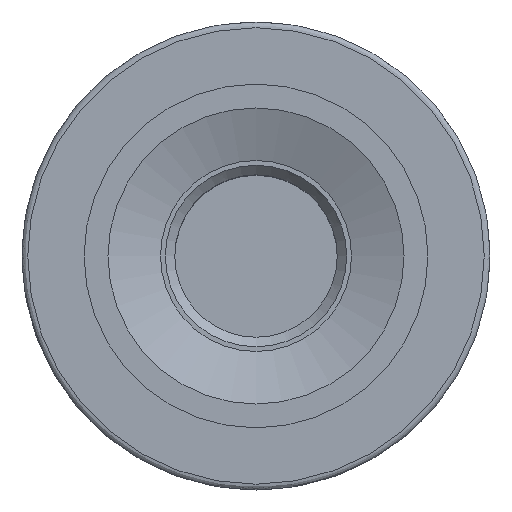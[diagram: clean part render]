
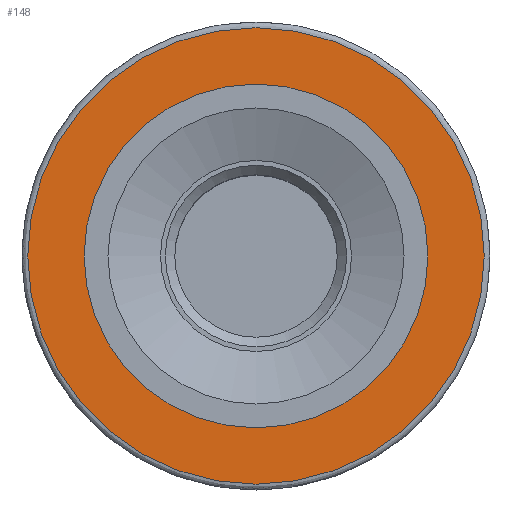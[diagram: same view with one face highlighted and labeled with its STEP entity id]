
A CAD part, top view. The second image highlights one B-rep face of the part: STEP entity #148.
In plain terms, the highlighted planar face has unit normal (0, 0, 1).
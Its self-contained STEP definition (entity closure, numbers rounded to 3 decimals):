
#89=CARTESIAN_POINT('',(-436.719,-729.281,69.49));
#90=VERTEX_POINT('',#89);
#97=CARTESIAN_POINT('',(-418.719,-729.281,69.49));
#98=VERTEX_POINT('',#97);
#99=CARTESIAN_POINT('',(-427.719,-729.281,69.49));
#100=DIRECTION('',(0.0,0.0,1.0));
#101=DIRECTION('',(-1.0,0.0,0.0));
#102=AXIS2_PLACEMENT_3D('',#99,#100,#101);
#103=CIRCLE('',#102,9.0);
#104=EDGE_CURVE('',#90,#98,#103,.T.);
#106=CARTESIAN_POINT('',(-427.719,-729.281,69.49));
#107=DIRECTION('',(0.0,0.0,1.0));
#108=DIRECTION('',(-1.0,0.0,0.0));
#109=AXIS2_PLACEMENT_3D('',#106,#107,#108);
#110=CIRCLE('',#109,9.0);
#111=EDGE_CURVE('',#98,#90,#110,.T.);
#119=CARTESIAN_POINT('',(-403.819,-705.381,69.49));
#120=DIRECTION('',(0.0,0.0,-1.0));
#121=DIRECTION('',(0.0,-1.0,0.0));
#122=AXIS2_PLACEMENT_3D('',#119,#120,#121);
#123=PLANE('',#122);
#124=CARTESIAN_POINT('',(-439.669,-729.281,69.49));
#125=VERTEX_POINT('',#124);
#126=CARTESIAN_POINT('',(-415.769,-729.281,69.49));
#127=VERTEX_POINT('',#126);
#128=CARTESIAN_POINT('',(-427.719,-729.281,69.49));
#129=DIRECTION('',(0.0,0.0,1.0));
#130=DIRECTION('',(-1.0,0.0,0.0));
#131=AXIS2_PLACEMENT_3D('',#128,#129,#130);
#132=CIRCLE('',#131,11.95);
#133=EDGE_CURVE('',#125,#127,#132,.T.);
#134=ORIENTED_EDGE('',*,*,#133,.T.);
#135=CARTESIAN_POINT('',(-427.719,-729.281,69.49));
#136=DIRECTION('',(0.0,0.0,1.0));
#137=DIRECTION('',(-1.0,0.0,0.0));
#138=AXIS2_PLACEMENT_3D('',#135,#136,#137);
#139=CIRCLE('',#138,11.95);
#140=EDGE_CURVE('',#127,#125,#139,.T.);
#141=ORIENTED_EDGE('',*,*,#140,.T.);
#142=EDGE_LOOP('',(#134,#141));
#143=FACE_OUTER_BOUND('',#142,.T.);
#144=ORIENTED_EDGE('',*,*,#111,.F.);
#145=ORIENTED_EDGE('',*,*,#104,.F.);
#146=EDGE_LOOP('',(#144,#145));
#147=FACE_BOUND('',#146,.T.);
#148=ADVANCED_FACE('',(#143,#147),#123,.F.);
